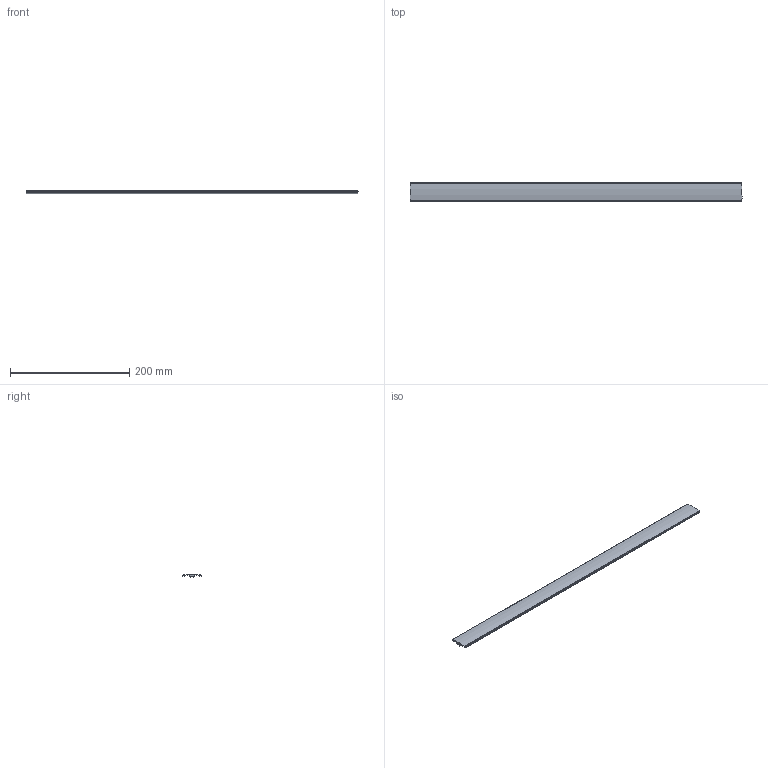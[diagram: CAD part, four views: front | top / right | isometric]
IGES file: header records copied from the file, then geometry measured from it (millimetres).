
Global section: file name: C:\CoreTechnologie\3D-in\01VYQ3FY06.igs; native system: CT CoreTechnologie 3D Evolution; preprocessor: 2006; date: 1180630.090603; units: millimetre
Bounding box: 557.6 x 30.9 x 5.84 mm (x, y, z)
Volume: 41196.1 mm3; surface area: 43951.8 mm2
Topology: 1 solids, 1 shells, 28 faces, 78 edges, 52 vertices
Faces by surface type: plane 19, revolution 9
